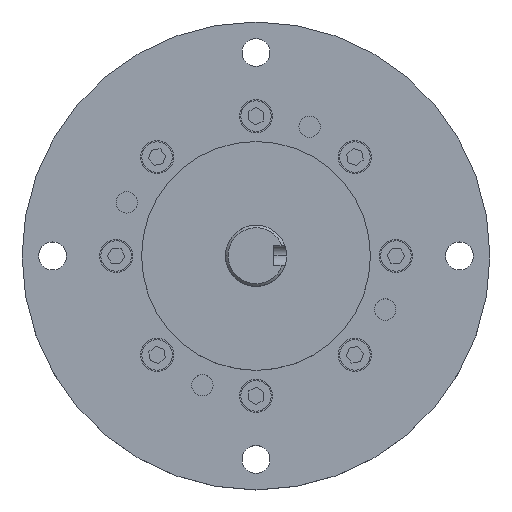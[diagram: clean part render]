
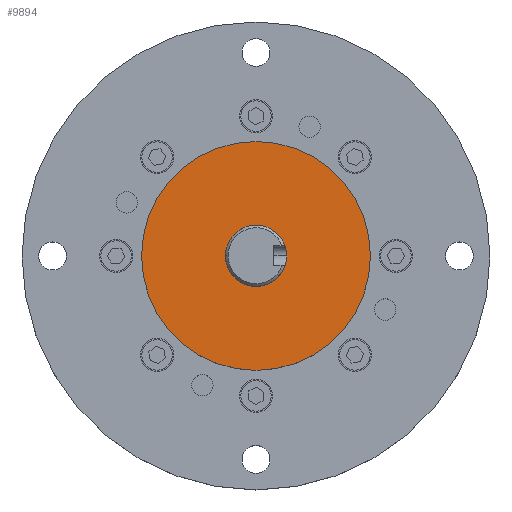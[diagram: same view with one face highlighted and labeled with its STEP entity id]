
A CAD part, top view. The second image highlights one B-rep face of the part: STEP entity #9894.
In plain terms, the highlighted planar face has unit normal (0, 0, 1).
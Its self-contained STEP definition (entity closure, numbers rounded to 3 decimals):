
#226 = VERTEX_POINT ( 'NONE', #4453 ) ;
#427 = AXIS2_PLACEMENT_3D ( 'NONE', #9472, #13769, #7315 ) ;
#912 = FACE_BOUND ( 'NONE', #9202, .T. ) ;
#1292 = AXIS2_PLACEMENT_3D ( 'NONE', #8507, #8460, #2060 ) ;
#2060 = DIRECTION ( 'NONE',  ( 1., 0., 0. ) ) ;
#2410 = FACE_OUTER_BOUND ( 'NONE', #8164, .T. ) ;
#2420 = CIRCLE ( 'NONE', #2446, 6. ) ;
#2446 = AXIS2_PLACEMENT_3D ( 'NONE', #10246, #7072, #3829 ) ;
#3320 = EDGE_CURVE ( 'NONE', #4638, #13903, #9300, .T. ) ;
#3561 = EDGE_CURVE ( 'NONE', #13903, #4638, #10971, .T. ) ;
#3829 = DIRECTION ( 'NONE',  ( 1., 0., 0. ) ) ;
#4136 = ORIENTED_EDGE ( 'NONE', *, *, #11133, .F. ) ;
#4453 = CARTESIAN_POINT ( 'NONE',  ( 6., 0., 12. ) ) ;
#4638 = VERTEX_POINT ( 'NONE', #12095 ) ;
#4906 = DIRECTION ( 'NONE',  ( 1., 0., 0. ) ) ;
#4979 = AXIS2_PLACEMENT_3D ( 'NONE', #8420, #11624, #5228 ) ;
#5228 = DIRECTION ( 'NONE',  ( 1., 0., 0. ) ) ;
#5996 = DIRECTION ( 'NONE',  ( 0., 0., 1. ) ) ;
#6452 = PLANE ( 'NONE',  #4979 ) ;
#6895 = VERTEX_POINT ( 'NONE', #7001 ) ;
#6941 = CIRCLE ( 'NONE', #1292, 6. ) ;
#7001 = CARTESIAN_POINT ( 'NONE',  ( -6., 0., 12. ) ) ;
#7072 = DIRECTION ( 'NONE',  ( 0., 0., 1. ) ) ;
#7315 = DIRECTION ( 'NONE',  ( 1., 0., 0. ) ) ;
#7954 = CARTESIAN_POINT ( 'NONE',  ( 0., 0., 12. ) ) ;
#8113 = EDGE_CURVE ( 'NONE', #6895, #226, #2420, .T. ) ;
#8164 = EDGE_LOOP ( 'NONE', ( #13431, #11001 ) ) ;
#8420 = CARTESIAN_POINT ( 'NONE',  ( 0., 0., 12. ) ) ;
#8460 = DIRECTION ( 'NONE',  ( 0., 0., 1. ) ) ;
#8507 = CARTESIAN_POINT ( 'NONE',  ( 0., 0., 12. ) ) ;
#8514 = ORIENTED_EDGE ( 'NONE', *, *, #8113, .F. ) ;
#8616 = AXIS2_PLACEMENT_3D ( 'NONE', #7954, #5996, #4906 ) ;
#8711 = CARTESIAN_POINT ( 'NONE',  ( -22.5, 0., 12. ) ) ;
#9202 = EDGE_LOOP ( 'NONE', ( #8514, #4136 ) ) ;
#9300 = CIRCLE ( 'NONE', #427, 22.5 ) ;
#9472 = CARTESIAN_POINT ( 'NONE',  ( 0., 0., 12. ) ) ;
#9894 = ADVANCED_FACE ( 'NONE', ( #2410, #912 ), #6452, .T. ) ;
#10246 = CARTESIAN_POINT ( 'NONE',  ( 0., 0., 12. ) ) ;
#10971 = CIRCLE ( 'NONE', #8616, 22.5 ) ;
#11001 = ORIENTED_EDGE ( 'NONE', *, *, #3561, .T. ) ;
#11133 = EDGE_CURVE ( 'NONE', #226, #6895, #6941, .T. ) ;
#11624 = DIRECTION ( 'NONE',  ( 0., 0., 1. ) ) ;
#12095 = CARTESIAN_POINT ( 'NONE',  ( 22.5, 0., 12. ) ) ;
#13431 = ORIENTED_EDGE ( 'NONE', *, *, #3320, .T. ) ;
#13769 = DIRECTION ( 'NONE',  ( 0., 0., 1. ) ) ;
#13903 = VERTEX_POINT ( 'NONE', #8711 ) ;
